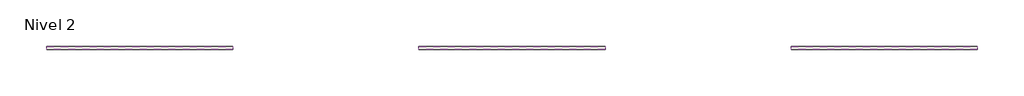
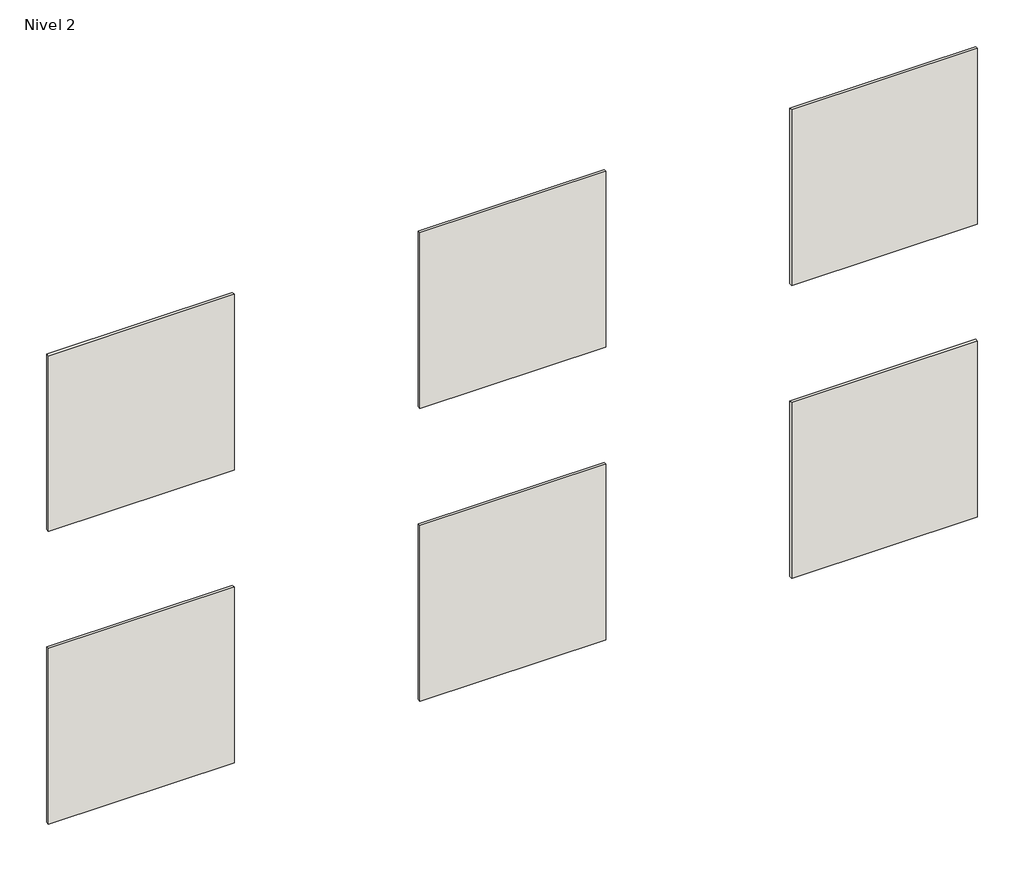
# One storey: 6 walls.
"""IFC4 building model written with IfcOpenShell, lengths in millimetres."""

import ifcopenshell
import ifcopenshell.guid

model = None  # the IFC model being written
_history = None  # IfcOwnerHistory: only IFC2X3 demands one
_inside = {}  # id of a spatial element -> (the spatial element, [elements in it])
_under = {}  # id of a project, library or spatial element -> (it, [spatial elements below it])
_declared = {}  # id of a project -> (the project, [libraries it declares])
_typed = {}  # id of a type object -> (the type object, [elements of that type])
_made_of = {}  # id of a material, layer set ... -> (it, [elements and type objects made of it])


def new_model(schema):
    """Start an empty IFC model of exactly this schema.

    Asked for "IFC4X3", IfcOpenShell would pick the latest addendum, in which some entities
    have other attributes; the version numbers below select the first issue.
    IFC2X3 requires an IfcOwnerHistory on every rooted entity: one is made here for all.
    """
    global model, _history
    if schema == "IFC4X3":
        model = ifcopenshell.file(schema_version=(4, 3, 0, 0))
    else:
        model = ifcopenshell.file(schema=schema)
    _inside.clear()
    _under.clear()
    _declared.clear()
    _typed.clear()
    _made_of.clear()
    _history = None
    if model.schema == "IFC2X3":
        org = make("IfcOrganization", Name="unknown")
        user = make(
            "IfcPersonAndOrganization",
            ThePerson=make("IfcPerson", FamilyName="unknown"),
            TheOrganization=org,
        )
        app = make(
            "IfcApplication",
            ApplicationDeveloper=org,
            Version="unknown",
            ApplicationFullName="unknown",
            ApplicationIdentifier="unknown",
        )
        _history = make(
            "IfcOwnerHistory",
            OwningUser=user,
            OwningApplication=app,
            ChangeAction="ADDED",
            CreationDate=0,
        )
    return model


def make(cls, **values):
    """One entity of the class cls with the attributes given. An attribute that is None is left unset."""
    return model.create_entity(
        cls, **{name: value for name, value in values.items() if value is not None}
    )


def rooted(cls, **values):
    """An entity with a GlobalId (a new one), such as an element, a storey or a relation."""
    return make(cls, GlobalId=ifcopenshell.guid.new(), OwnerHistory=_history, **values)


def si_unit(unit_type, name, prefix=None):
    """IfcSIUnit, for example si_unit("LENGTHUNIT", "METRE", prefix="MILLI")."""
    return make("IfcSIUnit", UnitType=unit_type, Prefix=prefix, Name=name)


def assignment(units):
    """IfcUnitAssignment: the units of a project."""
    return None if units is None else make("IfcUnitAssignment", Units=units)


def point(xyz):
    """IfcCartesianPoint."""
    return None if xyz is None else make("IfcCartesianPoint", Coordinates=xyz)


def direction(xyz):
    """IfcDirection."""
    return None if xyz is None else make("IfcDirection", DirectionRatios=xyz)


def frame(location, z_axis=None, x_axis=None):
    """IfcAxis2Placement3D, a coordinate frame: its origin and axes. An axis left out is left unset."""
    return make(
        "IfcAxis2Placement3D",
        Location=point(location),
        Axis=direction(z_axis),
        RefDirection=direction(x_axis),
    )


def origin():
    """The frame at (0, 0, 0) with its axes left unset."""
    return frame((0.0, 0.0, 0.0))


def place(relative_to, where):
    """IfcLocalPlacement: puts the frame where relative to a parent placement (None: the world)."""
    return make(
        "IfcLocalPlacement", PlacementRelTo=relative_to, RelativePlacement=where
    )


def context(
    kind, dimensions, precision=None, world=None, true_north=None, identifier=None
):
    """IfcGeometricRepresentationContext, for example the 3D "Model" context."""
    return make(
        "IfcGeometricRepresentationContext",
        ContextIdentifier=identifier,
        ContextType=kind,
        CoordinateSpaceDimension=dimensions,
        Precision=precision,
        WorldCoordinateSystem=world,
        TrueNorth=true_north,
    )


def project(units=None, contexts=None):
    """IfcProject with its units and contexts."""
    return rooted(
        "IfcProject",
        Name="project",
        RepresentationContexts=contexts,
        UnitsInContext=assignment(units),
    )


def spatial(cls, under=None, at=None, **own):
    """A site, building, storey or space (cls), placed at a placement, below another one or the project."""
    s = rooted(cls, ObjectPlacement=at, **own)
    if under is not None:
        _under.setdefault(under.id(), (under, []))[1].append(s)
    return s


def polyline(points):
    """IfcPolyline through the points."""
    return make("IfcPolyline", Points=[point(p) for p in points])


def outline(outer, holes=None, kind="AREA"):
    """IfcArbitraryClosedProfileDef: a profile drawn as a closed curve; with holes, ...WithVoids."""
    if holes is None:
        return make("IfcArbitraryClosedProfileDef", ProfileType=kind, OuterCurve=outer)
    return make(
        "IfcArbitraryProfileDefWithVoids",
        ProfileType=kind,
        OuterCurve=outer,
        InnerCurves=holes,
    )


def extrude(swept, where, along, depth):
    """IfcExtrudedAreaSolid: the profile swept, set in the frame where, extruded along a direction by depth."""
    return make(
        "IfcExtrudedAreaSolid",
        SweptArea=swept,
        Position=where,
        ExtrudedDirection=direction(along),
        Depth=depth,
    )


def shape(context_of_items, identifier, shape_type, items):
    """IfcShapeRepresentation: the items that make up one representation, for example the "Body"."""
    return make(
        "IfcShapeRepresentation",
        ContextOfItems=context_of_items,
        RepresentationIdentifier=identifier,
        RepresentationType=shape_type,
        Items=items,
    )


def made_of(thing, what):
    """Note that an element or type object is made of a material, layer set ...; save() writes the relation."""
    if what is not None:
        _made_of.setdefault(what.id(), (what, []))[1].append(thing)
    return thing


def element(
    cls,
    number,
    at=None,
    inside=None,
    cuts=None,
    type_object=None,
    material=None,
    context=None,
    identifier="Body",
    shape_type=None,
    held_by="IfcProductDefinitionShape",
    body=None,
    shapes=None,
    **own,
):
    """One element of the class cls, such as IfcWall. Its Tag is "e" and its number.

    at: its placement. inside: the storey or other place that contains it. cuts: it is an
    opening in that element (IfcRelVoidsElement). A single representation is given by context,
    identifier, shape_type and body (its items); several are given by shapes. held_by: the class
    of the entity that holds the representations. save() writes the other relations.
    """
    e = rooted(cls, Tag="e%d" % number, ObjectPlacement=at, **own)
    if body is not None:
        shapes = [shape(context, identifier, shape_type, body)]
    if shapes is not None:
        e.Representation = make(held_by, Representations=shapes)
    if inside is not None:
        _inside.setdefault(inside.id(), (inside, []))[1].append(e)
    if cuts is not None:
        rooted(
            "IfcRelVoidsElement", RelatingBuildingElement=cuts, RelatedOpeningElement=e
        )
    if type_object is not None:
        _typed.setdefault(type_object.id(), (type_object, []))[1].append(e)
    return made_of(e, material)


def aggregate(whole, parts):
    """IfcRelAggregates: a whole, such as a stair, and the parts it consists of."""
    return rooted("IfcRelAggregates", RelatingObject=whole, RelatedObjects=parts)


def save(model, path):
    """Write the relations noted so far, then the file.

    IfcRelAggregates (storeys below a building ...), IfcRelContainedInSpatialStructure (elements
    in a storey), IfcRelDefinesByType, IfcRelAssociatesMaterial and IfcRelDeclares: one each for
    every whole, place, type object, material and project.
    """
    for whole, parts in _under.values():
        aggregate(whole, parts)
    for where, things in _inside.values():
        rooted(
            "IfcRelContainedInSpatialStructure",
            RelatedElements=things,
            RelatingStructure=where,
        )
    for kind, things in _typed.values():
        rooted("IfcRelDefinesByType", RelatedObjects=things, RelatingType=kind)
    for what, things in _made_of.values():
        rooted("IfcRelAssociatesMaterial", RelatedObjects=things, RelatingMaterial=what)
    for by, libraries in _declared.values():
        rooted("IfcRelDeclares", RelatingContext=by, RelatedDefinitions=libraries)
    model.write(path)


model = new_model("IFC4")

# Units and contexts
model_context = context("Model", 3, world=origin())
ifc_project = project(units=[si_unit("LENGTHUNIT", "METRE", prefix="MILLI")], contexts=[model_context])

# Site, building, storey
site = spatial("IfcSite", under=ifc_project)
building = spatial("IfcBuilding", under=site)
storey = spatial("IfcBuildingStorey", under=building, Name="Nivel 2", Elevation=3000.0)

# Walls
placement = place(None, origin())
element("IfcWall", 1, ObjectType="VIVES LAVERTON ARENA 60x60", at=placement, inside=storey, context=model_context, shape_type="SweptSolid", body=[
    extrude(outline(polyline([(16588.40579, 612.1723362), (15988.40579, 612.1723362), (15988.40579, 622.1723362), (16588.40579, 622.1723362), (16588.40579, 612.1723362)])), frame((0.0, 0.0, 4333.2265159), z_axis=(0.0, 0.0, 1.0), x_axis=(1.0, 0.0, 0.0)), (0.0, 0.0, 1.0), 600.0),
])
element("IfcWall", 2, ObjectType="VIVES LAVERTON NIEVE 60x60", at=placement, inside=storey, context=model_context, shape_type="SweptSolid", body=[
    extrude(outline(polyline([(17788.40579, 612.1723362), (17188.40579, 612.1723362), (17188.40579, 622.1723362), (17788.40579, 622.1723362), (17788.40579, 612.1723362)])), frame((0.0, 0.0, 4333.2265159), z_axis=(0.0, 0.0, 1.0), x_axis=(1.0, 0.0, 0.0)), (0.0, 0.0, 1.0), 600.0),
])
element("IfcWall", 3, ObjectType="VIVES LAVERTON NATURAL 60x60", at=placement, inside=storey, context=model_context, shape_type="SweptSolid", body=[
    extrude(outline(polyline([(18988.40579, 612.1723362), (18388.40579, 612.1723362), (18388.40579, 622.1723362), (18988.40579, 622.1723362), (18988.40579, 612.1723362)])), frame((0.0, 0.0, 4333.2265159), z_axis=(0.0, 0.0, 1.0), x_axis=(1.0, 0.0, 0.0)), (0.0, 0.0, 1.0), 600.0),
])
element("IfcWall", 4, ObjectType="VIVES LAVERTON BEIGE 60x60", at=placement, inside=storey, context=model_context, shape_type="SweptSolid", body=[
    extrude(outline(polyline([(16588.40579, 612.1723362), (15988.40579, 612.1723362), (15988.40579, 622.1723362), (16588.40579, 622.1723362), (16588.40579, 612.1723362)])), frame((0.0, 0.0, 3333.2265159), z_axis=(0.0, 0.0, 1.0), x_axis=(1.0, 0.0, 0.0)), (0.0, 0.0, 1.0), 600.0),
])
element("IfcWall", 5, ObjectType="VIVES LAVERTON GRIS 60x60", at=placement, inside=storey, context=model_context, shape_type="SweptSolid", body=[
    extrude(outline(polyline([(17788.40579, 612.1723362), (17188.40579, 612.1723362), (17188.40579, 622.1723362), (17788.40579, 622.1723362), (17788.40579, 612.1723362)])), frame((0.0, 0.0, 3333.2265159), z_axis=(0.0, 0.0, 1.0), x_axis=(1.0, 0.0, 0.0)), (0.0, 0.0, 1.0), 600.0),
])
element("IfcWall", 6, ObjectType="VIVES LAVERTON GRAFITO 60x60", at=placement, inside=storey, context=model_context, shape_type="SweptSolid", body=[
    extrude(outline(polyline([(18988.40579, 612.1723362), (18388.40579, 612.1723362), (18388.40579, 622.1723362), (18988.40579, 622.1723362), (18988.40579, 612.1723362)])), frame((0.0, 0.0, 3333.2265159), z_axis=(0.0, 0.0, 1.0), x_axis=(1.0, 0.0, 0.0)), (0.0, 0.0, 1.0), 600.0),
])

save(model, "model.ifc")
